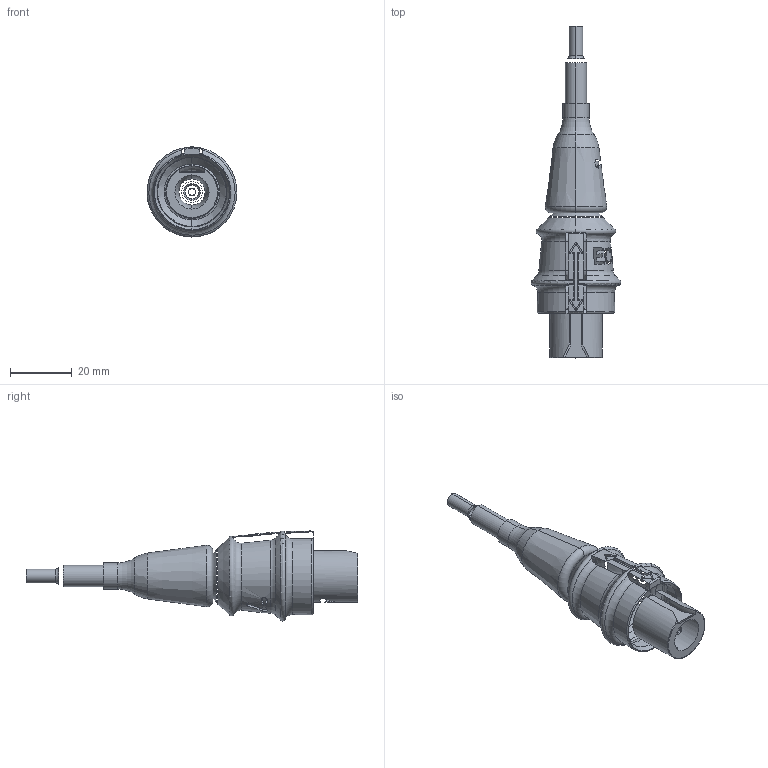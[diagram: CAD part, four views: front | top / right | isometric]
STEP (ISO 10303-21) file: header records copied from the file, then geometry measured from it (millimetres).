
FILE_DESCRIPTION((''),'2;1');
FILE_NAME('LCN-EC5X1-INLM_ASM','2025-08-24T13:04:49',('Neil'),(''),'CREO PARAMETRIC BY PTC INC, 2023134','CREO PARAMETRIC BY PTC INC, 2023134','');
FILE_SCHEMA(('CONFIG_CONTROL_DESIGN'));
Length unit declared in the file: millimetre
Products named in the file (1): LCN-EC5X1-INLM_ASM
Bounding box: 29.2 x 107.74 x 29.23 mm (x, y, z)
Surface area: 6145.3 mm2 (no closed solid volume)
Topology: 0 solids, 18 shells, 53 faces, 394 edges, 353 vertices
Faces by surface type: torus 20, cone 14, bspline 9, cylinder 7, plane 3
Entity records: 6275 total; most frequent: CARTESIAN_POINT 3909, ORIENTED_EDGE 449, EDGE_CURVE 394, VERTEX_POINT 353, DIRECTION 327, B_SPLINE_CURVE_WITH_KNOTS 263, AXIS2_PLACEMENT_3D 151, CIRCLE 106
